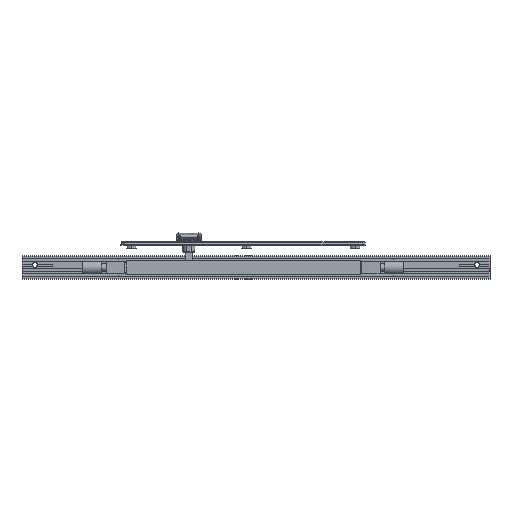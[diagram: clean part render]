
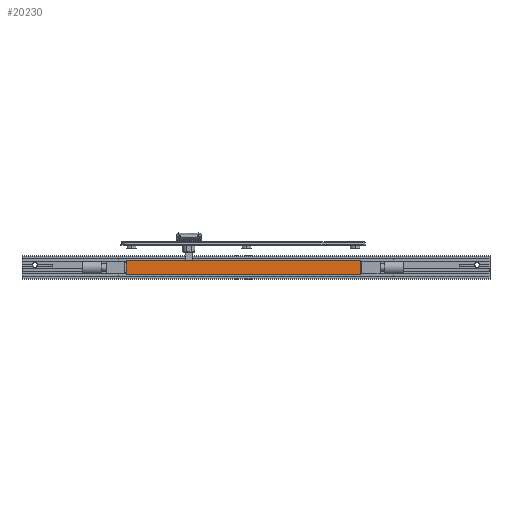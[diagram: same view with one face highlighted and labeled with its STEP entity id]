
A CAD part, left-side view. The second image highlights one B-rep face of the part: STEP entity #20230.
In plain terms, the highlighted planar face has unit normal (-1, 0, 0) as drawn and (1, 0, 0) by its records, which use the part's own axes.
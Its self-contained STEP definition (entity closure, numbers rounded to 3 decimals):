
#216 = LINE ( 'NONE', #9653, #4667 ) ;
#646 = VERTEX_POINT ( 'NONE', #10785 ) ;
#1168 = DIRECTION ( 'NONE',  ( -1., 0., 0. ) ) ;
#4667 = VECTOR ( 'NONE', #22538, 1000. ) ;
#5087 = LINE ( 'NONE', #14971, #28314 ) ;
#6048 = VECTOR ( 'NONE', #22886, 1000. ) ;
#6239 = VECTOR ( 'NONE', #24466, 1000. ) ;
#6385 = ORIENTED_EDGE ( 'NONE', *, *, #16383, .T. ) ;
#6986 = CARTESIAN_POINT ( 'NONE',  ( 16., 72.75, -7.75 ) ) ;
#7406 = ORIENTED_EDGE ( 'NONE', *, *, #30207, .F. ) ;
#7643 = VERTEX_POINT ( 'NONE', #15045 ) ;
#7855 = DIRECTION ( 'NONE',  ( 0., 1., 0. ) ) ;
#9653 = CARTESIAN_POINT ( 'NONE',  ( 16., 72.75, 7.75 ) ) ;
#10479 = LINE ( 'NONE', #27780, #6048 ) ;
#10768 = DIRECTION ( 'NONE',  ( 0., -1., 0. ) ) ;
#10785 = CARTESIAN_POINT ( 'NONE',  ( 16., -199.25, 7.75 ) ) ;
#13672 = EDGE_CURVE ( 'NONE', #646, #7643, #10479, .T. ) ;
#14230 = ORIENTED_EDGE ( 'NONE', *, *, #21033, .F. ) ;
#14971 = CARTESIAN_POINT ( 'NONE',  ( 16., 72.75, -7.75 ) ) ;
#15045 = CARTESIAN_POINT ( 'NONE',  ( 16., -199.25, -7.75 ) ) ;
#15951 = FACE_OUTER_BOUND ( 'NONE', #30088, .T. ) ;
#16271 = PLANE ( 'NONE',  #30708 ) ;
#16383 = EDGE_CURVE ( 'NONE', #7643, #19393, #5087, .T. ) ;
#17550 = LINE ( 'NONE', #27537, #6239 ) ;
#19393 = VERTEX_POINT ( 'NONE', #6986 ) ;
#19968 = VERTEX_POINT ( 'NONE', #25986 ) ;
#20230 = ADVANCED_FACE ( 'NONE', ( #15951 ), #16271, .F. ) ;
#21033 = EDGE_CURVE ( 'NONE', #646, #19968, #17550, .T. ) ;
#22538 = DIRECTION ( 'NONE',  ( 0., 0., -1. ) ) ;
#22886 = DIRECTION ( 'NONE',  ( 0., 0., -1. ) ) ;
#24466 = DIRECTION ( 'NONE',  ( 0., 1., 0. ) ) ;
#25986 = CARTESIAN_POINT ( 'NONE',  ( 16., 72.75, 7.75 ) ) ;
#26264 = CARTESIAN_POINT ( 'NONE',  ( 16., 72.75, 7.75 ) ) ;
#27537 = CARTESIAN_POINT ( 'NONE',  ( 16., 72.75, 7.75 ) ) ;
#27780 = CARTESIAN_POINT ( 'NONE',  ( 16., -199.25, 7.75 ) ) ;
#28314 = VECTOR ( 'NONE', #7855, 1000. ) ;
#29837 = ORIENTED_EDGE ( 'NONE', *, *, #13672, .T. ) ;
#30088 = EDGE_LOOP ( 'NONE', ( #6385, #7406, #14230, #29837 ) ) ;
#30207 = EDGE_CURVE ( 'NONE', #19968, #19393, #216, .T. ) ;
#30708 = AXIS2_PLACEMENT_3D ( 'NONE', #26264, #1168, #10768 ) ;
